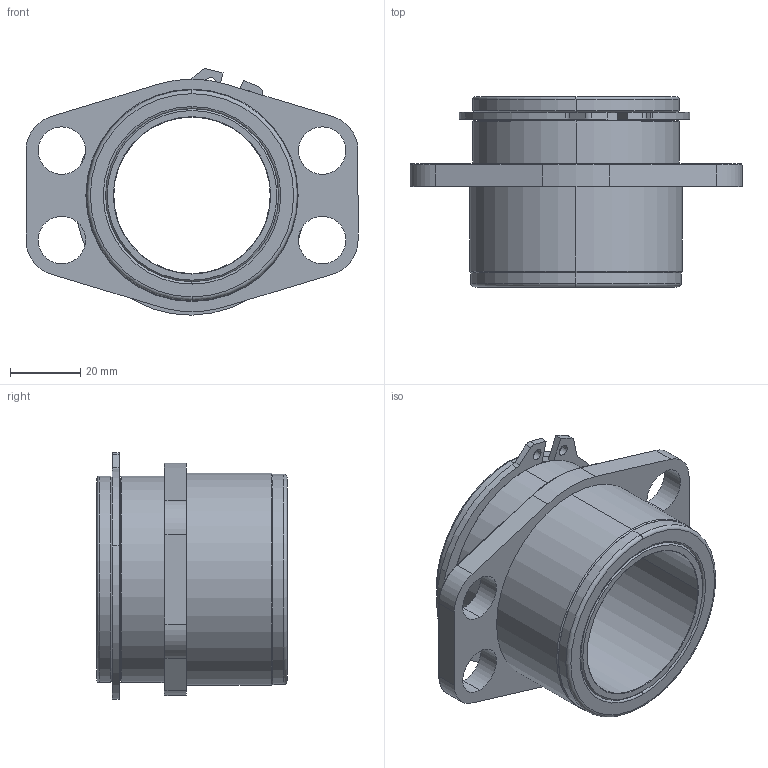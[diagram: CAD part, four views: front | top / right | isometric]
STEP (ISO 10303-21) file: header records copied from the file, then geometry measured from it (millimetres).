
FILE_DESCRIPTION (( 'STEP AP214' ), '1' );
FILE_NAME ('GK175-L2-E-Base.STEP', '2011-05-18T13:33:46', ( '' ), ( '' ), 'SwSTEP 2.0', 'SolidWorks 2010', '' );
FILE_SCHEMA (( 'AUTOMOTIVE_DESIGN' ));
Length unit declared in the file: inch
Products named in the file (4): GK175-L2-E-Base; Base-GK175-L_Base-GK175-L2-E-Cust; Bushing-BU-1.75ID-2.0Long_Bushing-BU-1.75ID-2.0Long; RetainingRing-External-Standard-2.375Shaft_RetainingRing-External-Standard-2.375Shaft
Assembly tree (3 placements, depth 2):
  GK175-L2-E-Base
    Base-GK175-L_Base-GK175-L2-E-Cust
    RetainingRing-External-Standard-2.375Shaft_RetainingRing-External-Standard-2.375Shaft
    Bushing-BU-1.75ID-2.0Long_Bushing-BU-1.75ID-2.0Long
Bounding box: 94.31 x 53.98 x 69.98 mm (x, y, z)
Volume: 78057.1 mm3; surface area: 43442.7 mm2
Topology: 3 solids, 3 shells, 103 faces, 241 edges, 147 vertices
Faces by surface type: cylinder 51, plane 21, torus 17, cone 14
Entity records: 3199 total; most frequent: DIRECTION 599, CARTESIAN_POINT 497, ORIENTED_EDGE 482, AXIS2_PLACEMENT_3D 249, EDGE_CURVE 241, VERTEX_POINT 147, CIRCLE 140, EDGE_LOOP 122
